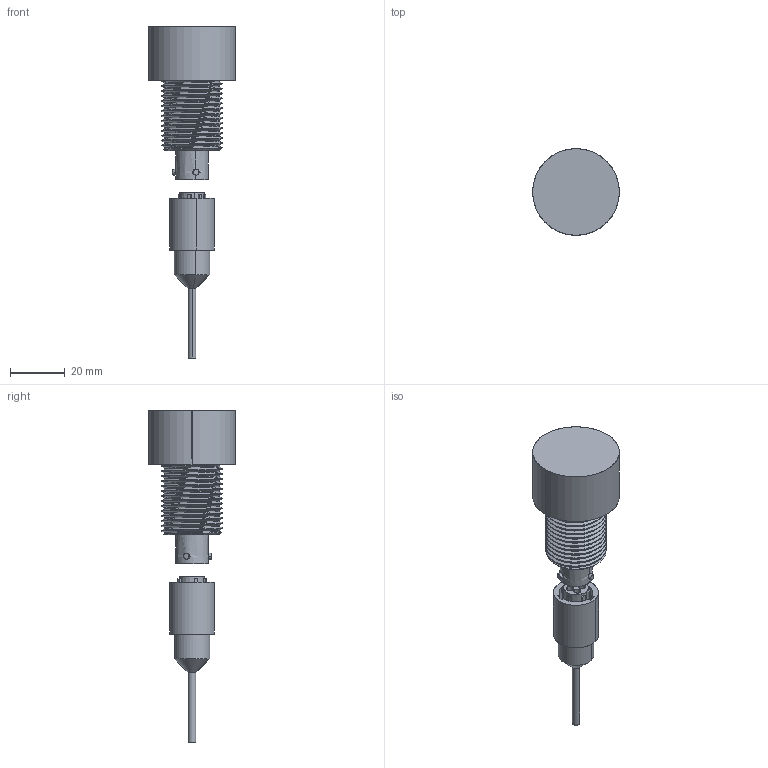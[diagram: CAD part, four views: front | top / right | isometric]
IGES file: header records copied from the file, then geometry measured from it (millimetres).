
Start section: SolidWorks IGES file using analytic representation for surfaces
Global section: file name: C:\Documents and Settings\Administrator\My Documents\EDI\3D\finished sensors\8C.IGS; native system: SolidWorks 2008; preprocessor: SolidWorks 2008; author: Administrator; date: 100304.194100; units: millimetre
Bounding box: 31.75 x 31.75 x 121.7 mm (x, y, z)
Surface area: 10707 mm2 (no closed solid volume)
Topology: 0 solids, 0 shells, 152 faces, 3046 edges, 3046 vertices
Faces by surface type: revolution 78, bspline 74
